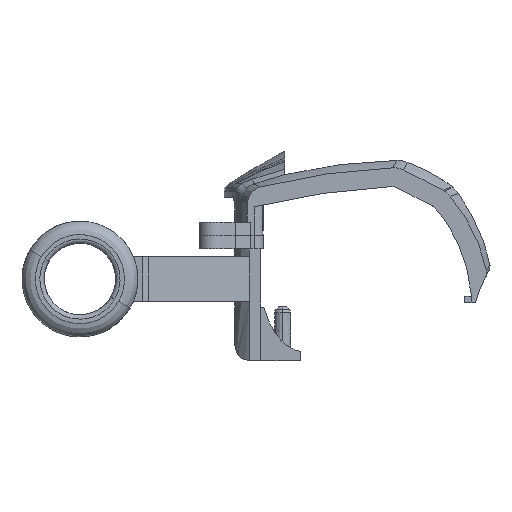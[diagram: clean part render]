
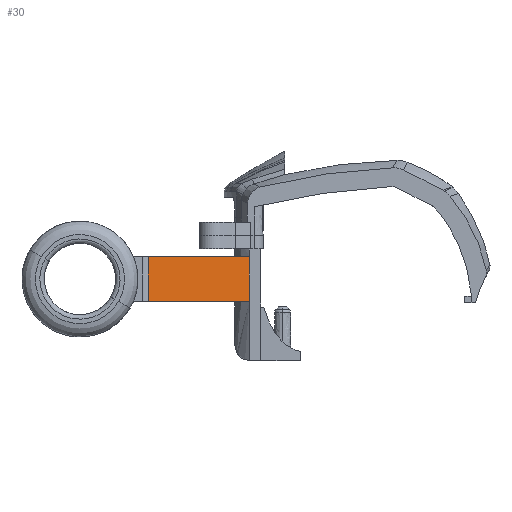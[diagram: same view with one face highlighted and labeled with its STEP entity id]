
A CAD part, left-side view. The second image highlights one B-rep face of the part: STEP entity #30.
In plain terms, the highlighted planar face has unit normal (-0.768, -0.641, 0).
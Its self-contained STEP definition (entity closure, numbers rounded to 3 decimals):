
#30=ADVANCED_FACE('',(#337),#4583,.T.);
#337=FACE_OUTER_BOUND('',#630,.T.);
#630=EDGE_LOOP('',(#969,#970,#971,#972));
#969=ORIENTED_EDGE('',*,*,#2454,.T.);
#970=ORIENTED_EDGE('',*,*,#2444,.F.);
#971=ORIENTED_EDGE('',*,*,#2446,.F.);
#972=ORIENTED_EDGE('',*,*,#2445,.T.);
#2444=EDGE_CURVE('',#3935,#3944,#3414,.T.);
#2445=EDGE_CURVE('',#3936,#3946,#3415,.T.);
#2446=EDGE_CURVE('',#3936,#3935,#3416,.T.);
#2454=EDGE_CURVE('',#3946,#3944,#3420,.T.);
#3414=B_SPLINE_CURVE_WITH_KNOTS('',1,(#6780,#6781),.UNSPECIFIED.,.F.,.F.,
(2,2),(3.015,3.639),.UNSPECIFIED.);
#3415=B_SPLINE_CURVE_WITH_KNOTS('',1,(#6782,#6783),.UNSPECIFIED.,.F.,.F.,
(2,2),(3.015,3.639),.UNSPECIFIED.);
#3416=B_SPLINE_CURVE_WITH_KNOTS('',1,(#6784,#6785),.UNSPECIFIED.,.F.,.F.,
(2,2),(0.,10.),.UNSPECIFIED.);
#3420=B_SPLINE_CURVE_WITH_KNOTS('',1,(#6804,#6805),.UNSPECIFIED.,.F.,.F.,
(2,2),(-47.549,-37.549),.UNSPECIFIED.);
#3935=VERTEX_POINT('',#6442);
#3936=VERTEX_POINT('',#6443);
#3944=VERTEX_POINT('',#6451);
#3946=VERTEX_POINT('',#6453);
#4583=PLANE('',#4698);
#4698=AXIS2_PLACEMENT_3D('',#5016,#4797,$);
#4797=DIRECTION('',(-0.768,-0.641,0.));
#5016=CARTESIAN_POINT('',(-15.039,1.108,45.117));
#6442=CARTESIAN_POINT('',(-44.84,36.831,45.117));
#6443=CARTESIAN_POINT('',(-44.84,36.831,35.117));
#6451=CARTESIAN_POINT('',(-25.953,14.191,45.117));
#6453=CARTESIAN_POINT('',(-25.953,14.191,35.117));
#6780=CARTESIAN_POINT('',(-44.84,36.831,45.117));
#6781=CARTESIAN_POINT('',(-25.953,14.191,45.117));
#6782=CARTESIAN_POINT('',(-44.84,36.831,35.117));
#6783=CARTESIAN_POINT('',(-25.953,14.191,35.117));
#6784=CARTESIAN_POINT('',(-44.84,36.831,35.117));
#6785=CARTESIAN_POINT('',(-44.84,36.831,45.117));
#6804=CARTESIAN_POINT('',(-25.953,14.191,35.117));
#6805=CARTESIAN_POINT('',(-25.953,14.191,45.117));
